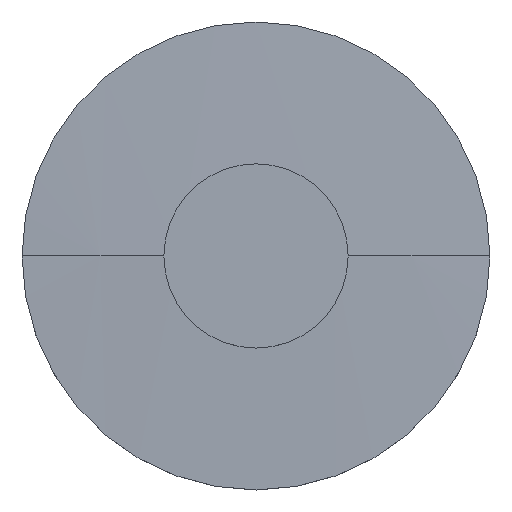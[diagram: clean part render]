
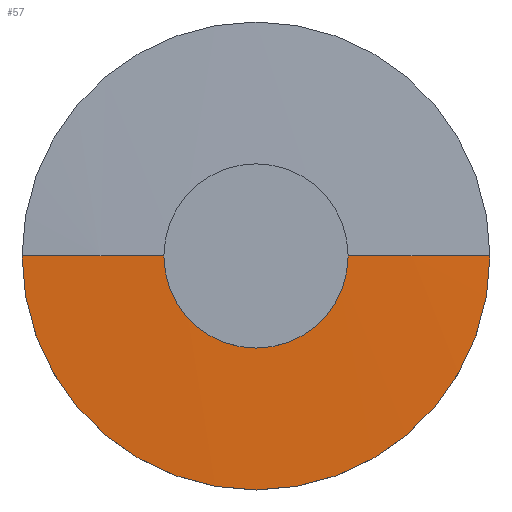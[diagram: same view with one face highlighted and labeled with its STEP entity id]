
A CAD part, top view. The second image highlights one B-rep face of the part: STEP entity #57.
In plain terms, the highlighted spherical face has radius 605.693 mm.
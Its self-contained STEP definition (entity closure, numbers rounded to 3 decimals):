
#57=ADVANCED_FACE('',(#71),#72,.T.);
#71=FACE_OUTER_BOUND('',#91,.T.);
#72=SPHERICAL_SURFACE('',#92,605.694);
#91=EDGE_LOOP('',(#124,#125,#126));
#92=AXIS2_PLACEMENT_3D('',#127,#128,#129);
#124=ORIENTED_EDGE('',*,*,#173,.T.);
#125=ORIENTED_EDGE('',*,*,#174,.T.);
#126=ORIENTED_EDGE('',*,*,#175,.T.);
#127=CARTESIAN_POINT('',(0.0,0.0,-597.194));
#128=DIRECTION('',(0.0,0.0,1.0));
#129=DIRECTION('',(1.0,0.0,0.0));
#173=EDGE_CURVE('',#189,#194,#195,.T.);
#174=EDGE_CURVE('',#194,#191,#196,.T.);
#175=EDGE_CURVE('',#191,#189,#197,.T.);
#189=VERTEX_POINT('',#215);
#191=VERTEX_POINT('',#218);
#194=VERTEX_POINT('',#222);
#195=CIRCLE('',#223,605.694);
#196=CIRCLE('',#224,605.694);
#197=CIRCLE('',#225,25.4);
#215=CARTESIAN_POINT('',(25.4,0.,7.967));
#218=CARTESIAN_POINT('',(-25.4,0.,7.967));
#222=CARTESIAN_POINT('',(0.0,0.0,8.5));
#223=AXIS2_PLACEMENT_3D('',#253,#254,#255);
#224=AXIS2_PLACEMENT_3D('',#256,#257,#258);
#225=AXIS2_PLACEMENT_3D('',#259,#260,#261);
#253=CARTESIAN_POINT('',(0.0,0.0,-597.194));
#254=DIRECTION('',(0.,-1.0,0.0));
#255=DIRECTION('',(0.0,0.0,1.0));
#256=CARTESIAN_POINT('',(0.0,0.0,-597.194));
#257=DIRECTION('',(0.,-1.0,0.0));
#258=DIRECTION('',(0.0,0.0,1.0));
#259=CARTESIAN_POINT('',(0.0,0.0,7.967));
#260=DIRECTION('',(0.0,0.0,1.0));
#261=DIRECTION('',(1.0,0.0,0.0));
